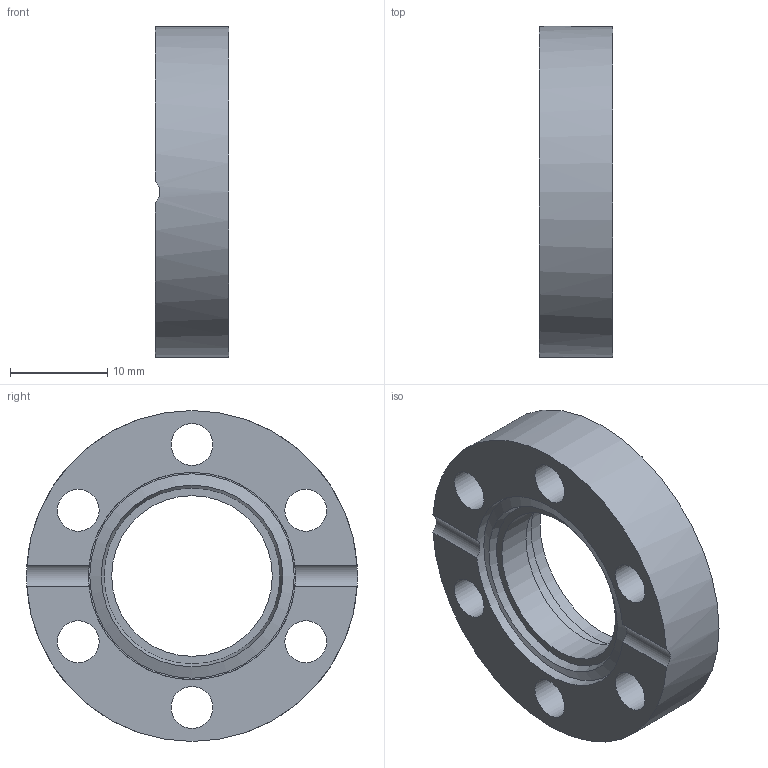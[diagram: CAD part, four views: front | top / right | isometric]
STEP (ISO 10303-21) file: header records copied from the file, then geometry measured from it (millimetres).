
FILE_DESCRIPTION( ( 'Unknown' ), '1' );
FILE_NAME( 'X:/Daten ( aktueller Bestand )/Projekte und Zeichnungen/Solid Edge/STP-Dateien/CF-Teile/7511R.stp', 'Unknown', ( 'Unknown' ), ( 'Unknown' ), 'PSStep 14.0', 'Unknown', ' ' );
FILE_SCHEMA( ( 'AUTOMOTIVE_DESIGN { 1 0 10303 214 1 1 1 1 }' ) );
Length unit declared in the file: millimetre
Products named in the file (3): Assem1; 7511R-1; 7511R-2
Assembly tree (2 placements, depth 2):
  Assem1
    7511R-1
    7511R-2
Bounding box: 7.6 x 34 x 34 mm (x, y, z)
Volume: 4303.5 mm3; surface area: 3978.9 mm2
Topology: 2 solids, 2 shells, 23 faces, 58 edges, 40 vertices
Faces by surface type: cylinder 14, plane 7, cone 2
Full cylindrical faces by diameter (mm): 4.3 x6, 16.5 x1, 18 x2, 21 x1, 21.3 x1, 34 x1
Entity records: 884 total; most frequent: CARTESIAN_POINT 146, DIRECTION 112, ORIENTED_EDGE 72, AXIS2_PLACEMENT_3D 54, EDGE_LOOP 54, EDGE_CURVE 36, FACE_OUTER_BOUND 35, VERTEX_POINT 32
